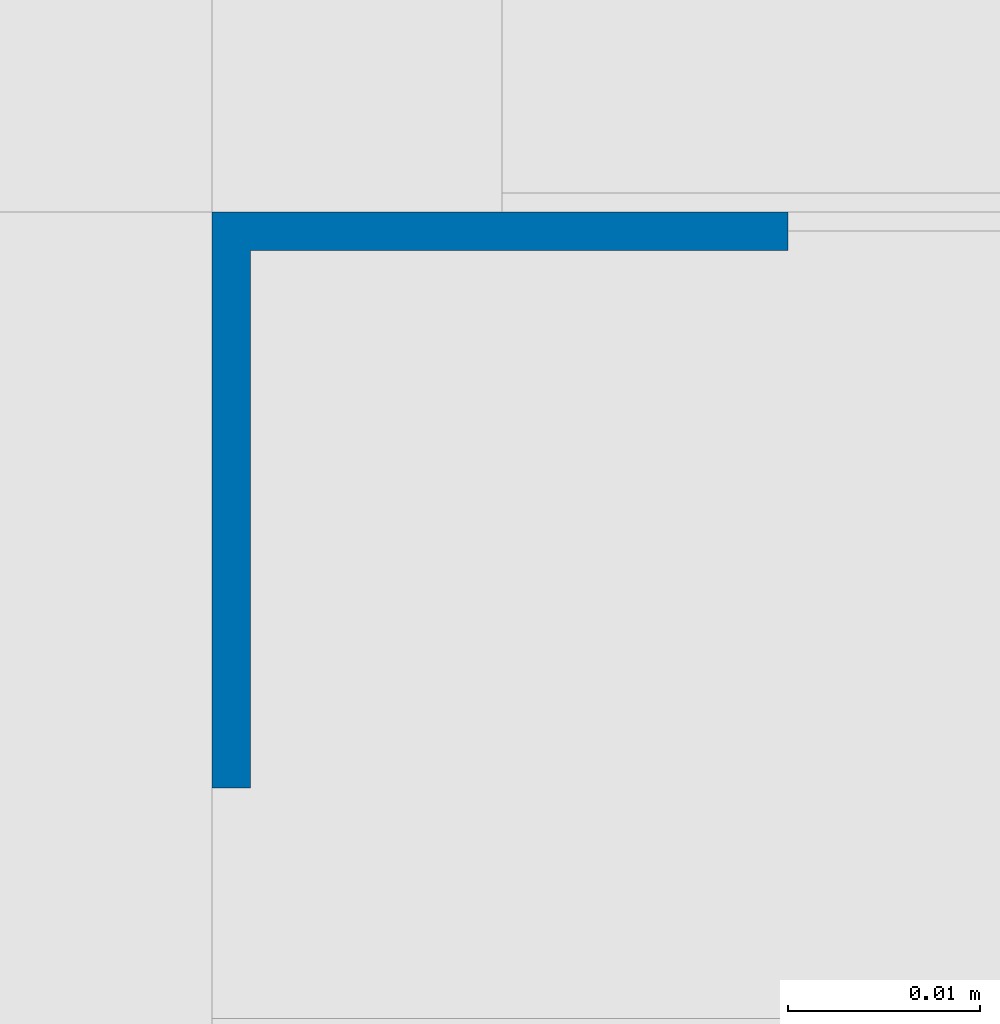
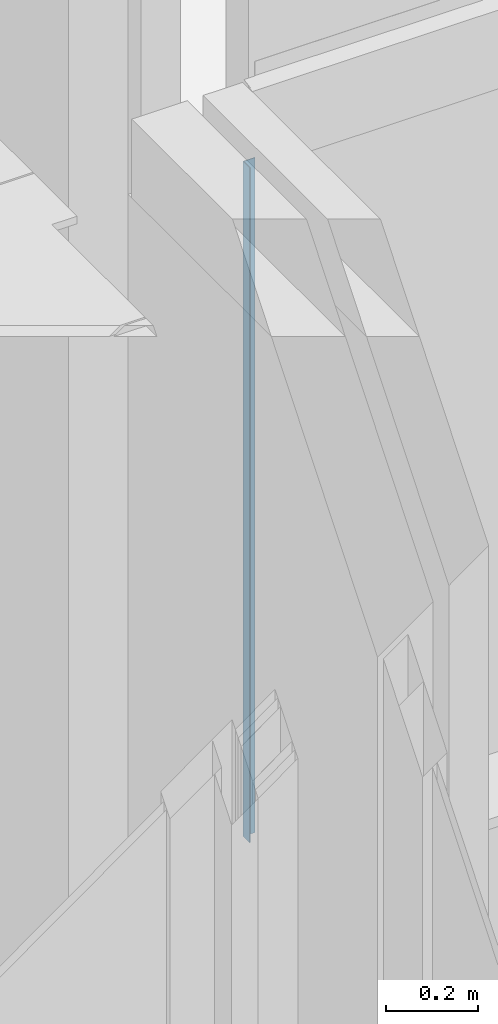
# One storey, part 31 of 338: 1 column.
"""IFC2X3 building model written with IfcOpenShell, lengths in millimetres."""

from ifc_helpers import new_model, entity, si_unit, converted_unit, derived_unit, money_unit, direction, frame, origin_with_axes, place, context, subcontext, project, spatial, faceted_brep, material, type_object, element, save


model = new_model("IFC2X3")

# Units and contexts
model_context = context("Model", 3, precision=0.01, world=origin_with_axes(), true_north=direction((0.0, 1.0)))
plan_context = context("Plan", 3, precision=0.01, world=origin_with_axes(), true_north=direction((0.0, 1.0)))
body_context = subcontext(model_context, "Body", "Model", "MODEL_VIEW")
ifc_project = project(units=[si_unit("LENGTHUNIT", "METRE", prefix="MILLI"), si_unit("AREAUNIT", "SQUARE_METRE"), si_unit("VOLUMEUNIT", "CUBIC_METRE"), converted_unit("PLANEANGLEUNIT", "DEGREE", entity("IfcPlaneAngleMeasure", 0.0174532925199), si_unit("PLANEANGLEUNIT", "RADIAN"), dimensions=[0, 0, 0, 0, 0, 0, 0]), money_unit("EUR"), converted_unit("TIMEUNIT", "Year", entity("IfcTimeMeasure", 31556926.0), si_unit("TIMEUNIT", "SECOND"), dimensions=[0, 0, 1, 0, 0, 0, 0]), si_unit("MASSUNIT", "GRAM", prefix="KILO"), si_unit("THERMODYNAMICTEMPERATUREUNIT", "DEGREE_CELSIUS"), si_unit("LUMINOUSINTENSITYUNIT", "LUMEN"), si_unit("ENERGYUNIT", "JOULE", prefix="MEGA"), derived_unit("THERMALCONDUCTANCEUNIT", [(si_unit("POWERUNIT", "WATT"), 1), (si_unit("LENGTHUNIT", "METRE"), -1), (si_unit("THERMODYNAMICTEMPERATUREUNIT", "KELVIN"), -1)]), derived_unit("SPECIFICHEATCAPACITYUNIT", [(si_unit("ENERGYUNIT", "JOULE"), 1), (si_unit("MASSUNIT", "GRAM", prefix="KILO"), -1), (si_unit("THERMODYNAMICTEMPERATUREUNIT", "KELVIN"), -1)]), derived_unit("MASSDENSITYUNIT", [(si_unit("MASSUNIT", "GRAM", prefix="KILO"), 1), (si_unit("VOLUMEUNIT", "CUBIC_METRE"), -1)])], contexts=[model_context, plan_context])

# Site, building, storey
site_placement = place(None, origin_with_axes())
site = spatial("IfcSite", under=ifc_project, at=site_placement, Name="Fortuinstraat Woensdrecht", CompositionType="ELEMENT")
building_placement = place(site_placement, origin_with_axes())
building = spatial("IfcBuilding", under=site, at=building_placement, Name="IKC Fortuna", CompositionType="ELEMENT")
storey_placement = place(building_placement, origin_with_axes())
storey = spatial("IfcBuildingStorey", under=building, at=storey_placement, Name="00 begane grond", CompositionType="ELEMENT", Elevation=0.0)

# Column
ifc_material = material(Name="Metaal - Staal C")
column_type = type_object("IfcColumnType", Name="L30/2 30 x 30", PredefinedType="COLUMN")
column_placement = place(storey_placement, frame((35113.4270654, 20896.2966283, 1000.41195258), z_axis=(0.0, 0.0, 1.0), x_axis=(0.0, -1.0, 0.0)))
element("IfcColumn", 1, at=column_placement, inside=storey, type_object=column_type, material=ifc_material, Name="28_Kolom_omtimmering kolom", ObjectType="COLUMN", context=body_context, shape_type="Brep", body=[
    faceted_brep([(0.0, 0.0, 1799.58804742), (0.0, 0.0, 0.0), (30.0, 0.0, 0.0), (30.0, 0.0, 1799.58804742), (0.0, 30.0, 1799.58804742), (0.0, 30.0, 0.0), (2.0, 30.0, 0.0), (2.0, 2.0, 0.0), (30.0, 2.0, 0.0), (30.0, 2.0, 1799.58804742), (2.0, 2.0, 1799.58804742), (2.0, 30.0, 1799.58804742)], [[[0, 1, 2, 3]], [[4, 5, 1, 0]], [[2, 1, 5, 6, 7, 8]], [[3, 2, 8, 9]], [[4, 0, 3, 9, 10, 11]], [[11, 6, 5, 4]], [[10, 7, 6, 11]], [[9, 8, 7, 10]]]),
])

save(model, "model.ifc")
